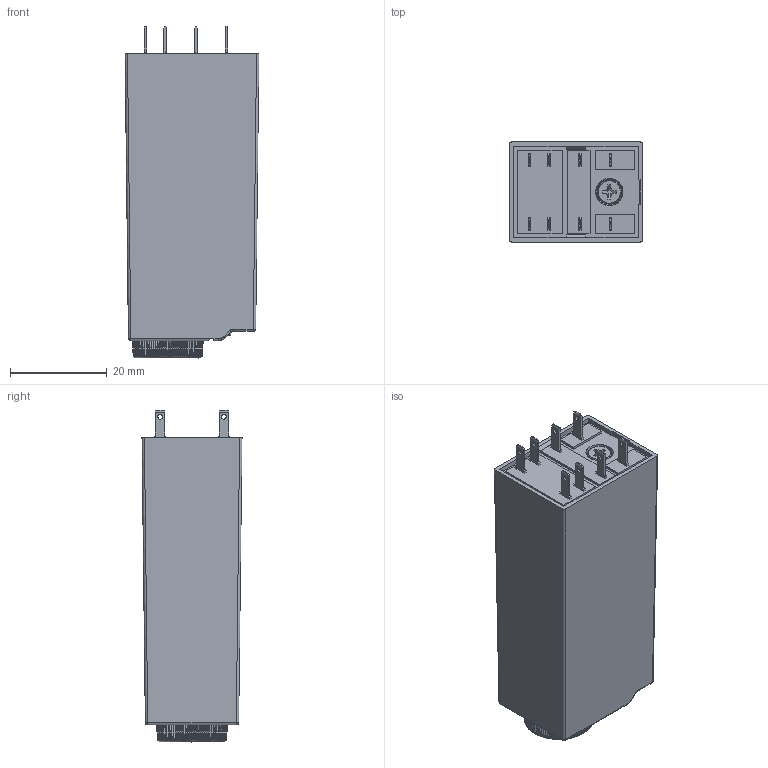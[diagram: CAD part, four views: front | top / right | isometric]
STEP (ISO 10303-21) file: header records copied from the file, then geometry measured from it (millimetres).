
FILE_DESCRIPTION(('STEP AP214'),'2;1');
FILE_NAME('8502.stp','2011-08-01T16:23:13',(''),(''),'2007.1.106','THINKDESIGN','');
FILE_SCHEMA(('AUTOMOTIVE_DESIGN'));
Products named in the file (1): None
Bounding box: 27.7 x 20.7 x 68.7 mm (x, y, z)
Surface area: 12280.7 mm2 (no closed solid volume)
Topology: 0 solids, 0 shells, 606 faces, 3145 edges, 3124 vertices
Faces by surface type: plane 383, bspline 154, cylinder 69
Full cylindrical faces by diameter (mm): 1 x8, 5 x1, 5.1 x1
Entity records: 34558 total; most frequent: CARTESIAN_POINT 14140, COMPOSITE_CURVE_SEGMENT 3142, DIRECTION 2834, TRIMMED_CURVE 1812, VECTOR 1734, LINE 1734, B_SPLINE_CURVE_WITH_KNOTS 938, STYLED_ITEM 607
